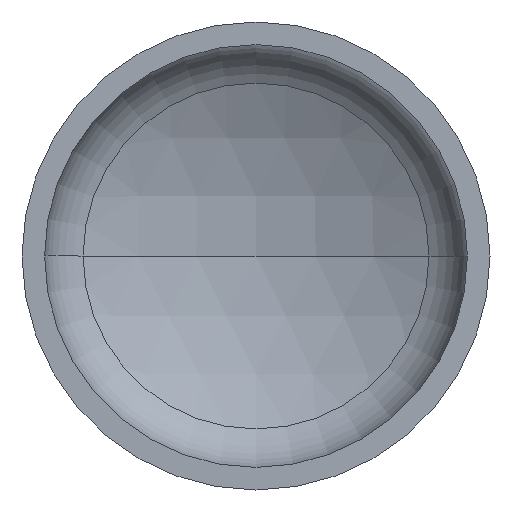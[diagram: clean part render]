
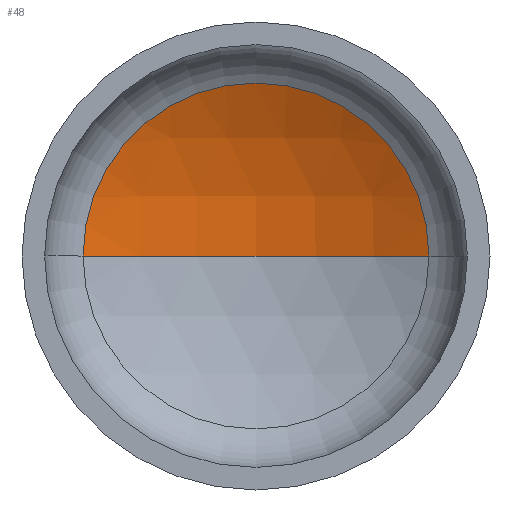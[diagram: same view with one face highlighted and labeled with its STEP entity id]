
A CAD part, front view. The second image highlights one B-rep face of the part: STEP entity #48.
In plain terms, the highlighted spherical face has radius 1360 mm.
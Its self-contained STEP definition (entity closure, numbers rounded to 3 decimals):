
#1 = CARTESIAN_POINT ( 'NONE',  ( 0., -875.672, 0. ) ) ;
#3 = CARTESIAN_POINT ( 'NONE',  ( 0., -875.672, 0. ) ) ;
#19 = EDGE_LOOP ( 'NONE', ( #25, #139, #135 ) ) ;
#24 = AXIS2_PLACEMENT_3D ( 'NONE', #3, #320, #180 ) ;
#25 = ORIENTED_EDGE ( 'NONE', *, *, #85, .F. ) ;
#26 = AXIS2_PLACEMENT_3D ( 'NONE', #1, #290, #368 ) ;
#27 = VERTEX_POINT ( 'NONE', #251 ) ;
#29 = AXIS2_PLACEMENT_3D ( 'NONE', #197, #198, #208 ) ;
#48 = ADVANCED_FACE ( 'NONE', ( #292 ), #140, .F. ) ;
#55 = AXIS2_PLACEMENT_3D ( 'NONE', #282, #360, #365 ) ;
#81 = EDGE_CURVE ( 'NONE', #27, #112, #223, .T. ) ;
#82 = EDGE_CURVE ( 'NONE', #126, #27, #151, .T. ) ;
#85 = EDGE_CURVE ( 'NONE', #126, #112, #399, .T. ) ;
#109 = CARTESIAN_POINT ( 'NONE',  ( -628.073, 330.613, 0. ) ) ;
#112 = VERTEX_POINT ( 'NONE', #109 ) ;
#126 = VERTEX_POINT ( 'NONE', #191 ) ;
#135 = ORIENTED_EDGE ( 'NONE', *, *, #81, .T. ) ;
#139 = ORIENTED_EDGE ( 'NONE', *, *, #82, .T. ) ;
#140 = SPHERICAL_SURFACE ( 'NONE', #55, 1360. ) ;
#151 = CIRCLE ( 'NONE', #26, 1360. ) ;
#180 = DIRECTION ( 'NONE',  ( 1., 0., 0. ) ) ;
#191 = CARTESIAN_POINT ( 'NONE',  ( 0., 484.328, 0. ) ) ;
#197 = CARTESIAN_POINT ( 'NONE',  ( 0., 330.613, 0. ) ) ;
#198 = DIRECTION ( 'NONE',  ( 0., -1., 0. ) ) ;
#208 = DIRECTION ( 'NONE',  ( 1., 0., 0. ) ) ;
#223 = CIRCLE ( 'NONE', #29, 628.073 ) ;
#251 = CARTESIAN_POINT ( 'NONE',  ( 628.073, 330.613, 0. ) ) ;
#282 = CARTESIAN_POINT ( 'NONE',  ( 0., -875.672, 0. ) ) ;
#290 = DIRECTION ( 'NONE',  ( 0., 0., -1. ) ) ;
#292 = FACE_OUTER_BOUND ( 'NONE', #19, .T. ) ;
#320 = DIRECTION ( 'NONE',  ( 0., 0., 1. ) ) ;
#360 = DIRECTION ( 'NONE',  ( 0., 0., -1. ) ) ;
#365 = DIRECTION ( 'NONE',  ( -1., 0., 0. ) ) ;
#368 = DIRECTION ( 'NONE',  ( -1., 0., 0. ) ) ;
#399 = CIRCLE ( 'NONE', #24, 1360. ) ;
